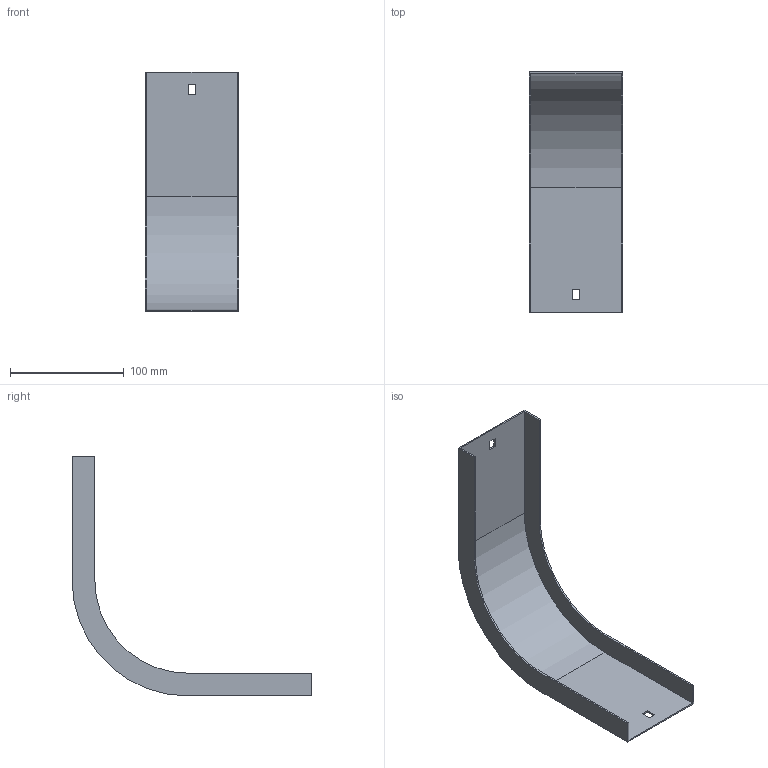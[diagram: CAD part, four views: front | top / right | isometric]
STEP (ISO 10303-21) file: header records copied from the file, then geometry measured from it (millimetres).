
FILE_DESCRIPTION (( 'STEP AP214' ), '1' );
FILE_NAME ('33G1C075.step', '2025-02-21T12:44:39', ( '' ), ( '' ), 'SwSTEP 2.0', 'SolidWorks 2023', '' );
FILE_SCHEMA (( 'AUTOMOTIVE_DESIGN' ));
Length unit declared in the file: millimetre
Products named in the file (1): 33G1C075
Bounding box: 82 x 210.5 x 210.5 mm (x, y, z)
Volume: 66114.7 mm3; surface area: 89644.5 mm2
Topology: 1 solids, 1 shells, 26 faces, 72 edges, 48 vertices
Faces by surface type: plane 22, cylinder 4
Entity records: 855 total; most frequent: CARTESIAN_POINT 147, ORIENTED_EDGE 144, DIRECTION 134, EDGE_CURVE 72, VECTOR 64, LINE 64, VERTEX_POINT 48, AXIS2_PLACEMENT_3D 35
